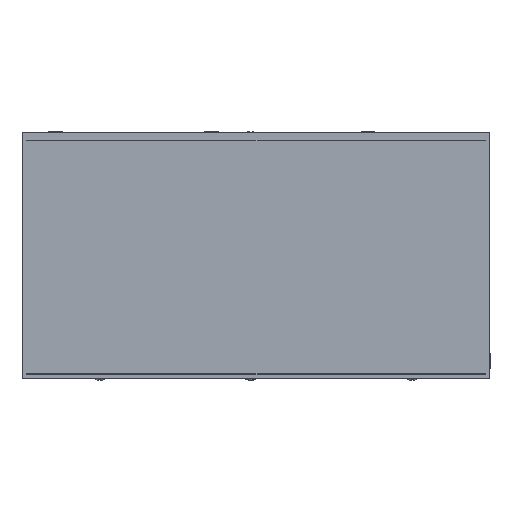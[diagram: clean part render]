
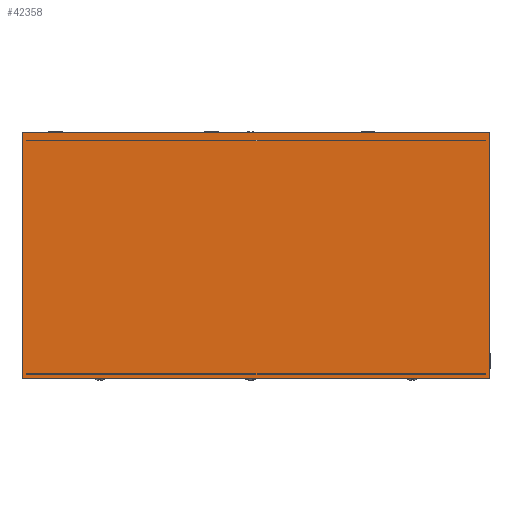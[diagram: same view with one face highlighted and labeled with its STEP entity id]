
A CAD part, left-side view. The second image highlights one B-rep face of the part: STEP entity #42358.
In plain terms, the highlighted planar face has unit normal (-1, 0, 0).
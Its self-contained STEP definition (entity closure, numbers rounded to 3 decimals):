
#266=FACE_BOUND('',#7407,.T.);
#267=FACE_BOUND('',#7408,.T.);
#1049=PLANE('',#45129);
#4994=FACE_OUTER_BOUND('',#7406,.T.);
#7406=EDGE_LOOP('',(#32163,#32164,#32165,#32166));
#7407=EDGE_LOOP('',(#32167,#32168,#32169,#32170));
#7408=EDGE_LOOP('',(#32171,#32172,#32173,#32174));
#12961=LINE('',#69464,#16609);
#12966=LINE('',#69529,#16614);
#12967=LINE('',#69531,#16615);
#12968=LINE('',#69532,#16616);
#12969=LINE('',#69535,#16617);
#12970=LINE('',#69537,#16618);
#12971=LINE('',#69539,#16619);
#12972=LINE('',#69540,#16620);
#12973=LINE('',#69543,#16621);
#12974=LINE('',#69545,#16622);
#12975=LINE('',#69547,#16623);
#12976=LINE('',#69548,#16624);
#16609=VECTOR('',#51408,10.);
#16614=VECTOR('',#51471,1000.);
#16615=VECTOR('',#51472,1000.);
#16616=VECTOR('',#51473,1000.);
#16617=VECTOR('',#51474,1000.);
#16618=VECTOR('',#51475,1000.);
#16619=VECTOR('',#51476,1000.);
#16620=VECTOR('',#51477,1000.);
#16621=VECTOR('',#51478,1000.);
#16622=VECTOR('',#51479,1000.);
#16623=VECTOR('',#51480,1000.);
#16624=VECTOR('',#51481,10.);
#20334=VERTEX_POINT('',#69461);
#20335=VERTEX_POINT('',#69463);
#20366=VERTEX_POINT('',#69528);
#20367=VERTEX_POINT('',#69530);
#20368=VERTEX_POINT('',#69533);
#20369=VERTEX_POINT('',#69534);
#20370=VERTEX_POINT('',#69536);
#20371=VERTEX_POINT('',#69538);
#20372=VERTEX_POINT('',#69541);
#20373=VERTEX_POINT('',#69542);
#20374=VERTEX_POINT('',#69544);
#20375=VERTEX_POINT('',#69546);
#24883=EDGE_CURVE('',#20334,#20335,#12961,.T.);
#24916=EDGE_CURVE('',#20366,#20335,#12966,.T.);
#24917=EDGE_CURVE('',#20367,#20334,#12967,.T.);
#24918=EDGE_CURVE('',#20367,#20366,#12968,.T.);
#24919=EDGE_CURVE('',#20368,#20369,#12969,.T.);
#24920=EDGE_CURVE('',#20369,#20370,#12970,.T.);
#24921=EDGE_CURVE('',#20370,#20371,#12971,.T.);
#24922=EDGE_CURVE('',#20371,#20368,#12972,.T.);
#24923=EDGE_CURVE('',#20372,#20373,#12973,.T.);
#24924=EDGE_CURVE('',#20373,#20374,#12974,.T.);
#24925=EDGE_CURVE('',#20374,#20375,#12975,.T.);
#24926=EDGE_CURVE('',#20372,#20375,#12976,.T.);
#32163=ORIENTED_EDGE('',*,*,#24916,.T.);
#32164=ORIENTED_EDGE('',*,*,#24883,.F.);
#32165=ORIENTED_EDGE('',*,*,#24917,.F.);
#32166=ORIENTED_EDGE('',*,*,#24918,.T.);
#32167=ORIENTED_EDGE('',*,*,#24919,.T.);
#32168=ORIENTED_EDGE('',*,*,#24920,.T.);
#32169=ORIENTED_EDGE('',*,*,#24921,.T.);
#32170=ORIENTED_EDGE('',*,*,#24922,.T.);
#32171=ORIENTED_EDGE('',*,*,#24923,.T.);
#32172=ORIENTED_EDGE('',*,*,#24924,.T.);
#32173=ORIENTED_EDGE('',*,*,#24925,.T.);
#32174=ORIENTED_EDGE('',*,*,#24926,.F.);
#42358=ADVANCED_FACE('',(#4994,#266,#267),#1049,.T.);
#45129=AXIS2_PLACEMENT_3D('',#69527,#51469,#51470);
#51408=DIRECTION('',(0.,-1.,0.));
#51469=DIRECTION('center_axis',(-1.,0.,0.));
#51470=DIRECTION('ref_axis',(0.,1.,0.));
#51471=DIRECTION('',(0.,0.,1.));
#51472=DIRECTION('',(0.,0.,1.));
#51473=DIRECTION('',(0.,-1.,0.));
#51474=DIRECTION('',(0.,1.,0.));
#51475=DIRECTION('',(0.,0.,1.));
#51476=DIRECTION('',(0.,-1.,0.));
#51477=DIRECTION('',(0.,0.,-1.));
#51478=DIRECTION('',(0.,0.,-1.));
#51479=DIRECTION('',(0.,1.,0.));
#51480=DIRECTION('',(0.,0.,1.));
#51481=DIRECTION('',(0.,1.,0.));
#69461=CARTESIAN_POINT('',(13.695,353.849,3.));
#69463=CARTESIAN_POINT('',(13.695,174.249,3.));
#69464=CARTESIAN_POINT('',(13.695,316.549,3.));
#69527=CARTESIAN_POINT('Origin',(13.695,352.049,-90.));
#69528=CARTESIAN_POINT('',(13.695,174.249,-91.5));
#69529=CARTESIAN_POINT('',(13.695,174.249,-91.5));
#69530=CARTESIAN_POINT('',(13.695,353.849,-91.5));
#69531=CARTESIAN_POINT('',(13.695,353.849,-90.));
#69532=CARTESIAN_POINT('',(13.695,247.049,-91.5));
#69533=CARTESIAN_POINT('',(13.695,176.049,-90.));
#69534=CARTESIAN_POINT('',(13.695,352.049,-90.));
#69535=CARTESIAN_POINT('',(13.695,247.049,-90.));
#69536=CARTESIAN_POINT('',(13.695,352.049,-89.8));
#69537=CARTESIAN_POINT('',(13.695,352.049,-90.));
#69538=CARTESIAN_POINT('',(13.695,176.049,-89.8));
#69539=CARTESIAN_POINT('',(13.695,206.049,-89.8));
#69540=CARTESIAN_POINT('',(13.695,176.049,-43.5));
#69541=CARTESIAN_POINT('',(13.695,176.049,0.));
#69542=CARTESIAN_POINT('',(13.695,176.049,-0.2));
#69543=CARTESIAN_POINT('',(13.695,176.049,-43.5));
#69544=CARTESIAN_POINT('',(13.695,352.049,-0.2));
#69545=CARTESIAN_POINT('',(13.695,206.049,-0.2));
#69546=CARTESIAN_POINT('',(13.695,352.049,0.));
#69547=CARTESIAN_POINT('',(13.695,352.049,-90.));
#69548=CARTESIAN_POINT('',(13.695,316.549,0.));
